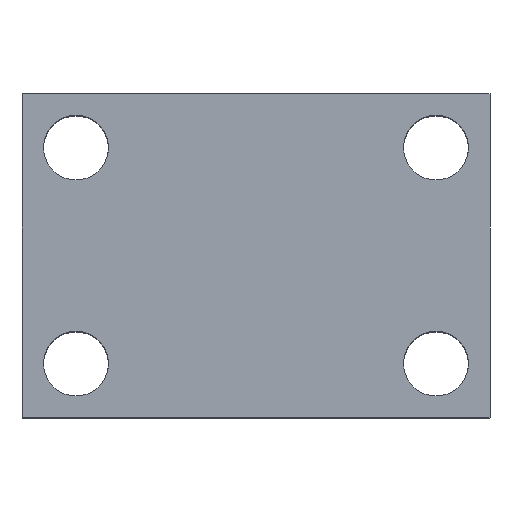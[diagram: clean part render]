
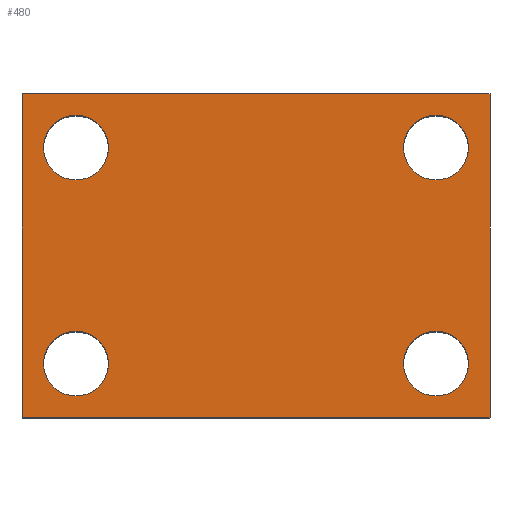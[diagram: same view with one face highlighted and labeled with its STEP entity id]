
A CAD part, top view. The second image highlights one B-rep face of the part: STEP entity #480.
In plain terms, the highlighted planar face has unit normal (0, 0, 1).
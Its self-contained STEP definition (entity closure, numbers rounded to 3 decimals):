
#42 = AXIS2_PLACEMENT_3D ( 'NONE', #17515, #17565, #17576 ) ;
#69 = FACE_OUTER_BOUND ( 'NONE', #12133, .T. ) ;
#89 = DIRECTION ( 'NONE',  ( -1., 0., 0. ) ) ;
#152 = ORIENTED_EDGE ( 'NONE', *, *, #786, .T. ) ;
#200 = VERTEX_POINT ( 'NONE', #9200 ) ;
#208 = DIRECTION ( 'NONE',  ( -1., 0., 0. ) ) ;
#325 = DIRECTION ( 'NONE',  ( -1., 0., 0. ) ) ;
#372 = VERTEX_POINT ( 'NONE', #14771 ) ;
#480 = ADVANCED_FACE ( 'NONE', ( #10872, #4013, #7201, #3609, #69 ), #17454, .F. ) ;
#782 = EDGE_LOOP ( 'NONE', ( #13440, #6436 ) ) ;
#786 = EDGE_CURVE ( 'NONE', #6627, #3094, #1119, .T. ) ;
#787 = AXIS2_PLACEMENT_3D ( 'NONE', #13199, #4985, #14570 ) ;
#805 = VERTEX_POINT ( 'NONE', #3782 ) ;
#964 = DIRECTION ( 'NONE',  ( 1., 0., 0. ) ) ;
#1008 = EDGE_CURVE ( 'NONE', #10574, #4087, #3798, .T. ) ;
#1119 = CIRCLE ( 'NONE', #10001, 4.5 ) ;
#1162 = CIRCLE ( 'NONE', #3664, 4.5 ) ;
#1393 = VECTOR ( 'NONE', #7278, 1000. ) ;
#1807 = LINE ( 'NONE', #10042, #1393 ) ;
#2027 = VERTEX_POINT ( 'NONE', #6520 ) ;
#2135 = ORIENTED_EDGE ( 'NONE', *, *, #3191, .T. ) ;
#2726 = CIRCLE ( 'NONE', #10673, 4.5 ) ;
#2855 = VERTEX_POINT ( 'NONE', #15859 ) ;
#2891 = VERTEX_POINT ( 'NONE', #9048 ) ;
#3021 = CARTESIAN_POINT ( 'NONE',  ( -29.5, 37.5, 40. ) ) ;
#3094 = VERTEX_POINT ( 'NONE', #8401 ) ;
#3191 = EDGE_CURVE ( 'NONE', #3094, #6627, #13176, .T. ) ;
#3359 = AXIS2_PLACEMENT_3D ( 'NONE', #15993, #7806, #17375 ) ;
#3475 = ORIENTED_EDGE ( 'NONE', *, *, #4452, .F. ) ;
#3609 = FACE_BOUND ( 'NONE', #782, .T. ) ;
#3664 = AXIS2_PLACEMENT_3D ( 'NONE', #8052, #17628, #9421 ) ;
#3782 = CARTESIAN_POINT ( 'NONE',  ( 20.5, 37.5, 40. ) ) ;
#3798 = LINE ( 'NONE', #14413, #9772 ) ;
#3918 = CARTESIAN_POINT ( 'NONE',  ( -29.5, 7.5, 40. ) ) ;
#4013 = FACE_BOUND ( 'NONE', #15447, .T. ) ;
#4058 = AXIS2_PLACEMENT_3D ( 'NONE', #7490, #17054, #8868 ) ;
#4087 = VERTEX_POINT ( 'NONE', #6098 ) ;
#4185 = CARTESIAN_POINT ( 'NONE',  ( 25., 7.5, 40. ) ) ;
#4292 = DIRECTION ( 'NONE',  ( 0., 0., -1. ) ) ;
#4351 = DIRECTION ( 'NONE',  ( -1., 0., 0. ) ) ;
#4452 = EDGE_CURVE ( 'NONE', #10574, #200, #15484, .T. ) ;
#4840 = CIRCLE ( 'NONE', #787, 4.5 ) ;
#4971 = EDGE_LOOP ( 'NONE', ( #15059, #11252 ) ) ;
#4985 = DIRECTION ( 'NONE',  ( 0., 0., -1. ) ) ;
#6098 = CARTESIAN_POINT ( 'NONE',  ( -32.5, 0., 40. ) ) ;
#6436 = ORIENTED_EDGE ( 'NONE', *, *, #15549, .T. ) ;
#6520 = CARTESIAN_POINT ( 'NONE',  ( 32.5, 0., 40. ) ) ;
#6562 = CIRCLE ( 'NONE', #9267, 4.5 ) ;
#6614 = EDGE_LOOP ( 'NONE', ( #2135, #152 ) ) ;
#6627 = VERTEX_POINT ( 'NONE', #6975 ) ;
#6700 = VERTEX_POINT ( 'NONE', #3021 ) ;
#6917 = DIRECTION ( 'NONE',  ( 1., 0., 0. ) ) ;
#6975 = CARTESIAN_POINT ( 'NONE',  ( 29.5, 7.5, 40. ) ) ;
#7201 = FACE_BOUND ( 'NONE', #6614, .T. ) ;
#7278 = DIRECTION ( 'NONE',  ( 0., -1., 0. ) ) ;
#7490 = CARTESIAN_POINT ( 'NONE',  ( 25., 7.5, 40. ) ) ;
#7806 = DIRECTION ( 'NONE',  ( 0., 0., -1. ) ) ;
#8052 = CARTESIAN_POINT ( 'NONE',  ( -25., 7.5, 40. ) ) ;
#8077 = EDGE_CURVE ( 'NONE', #200, #2027, #1807, .T. ) ;
#8151 = DIRECTION ( 'NONE',  ( 0., 0., -1. ) ) ;
#8209 = VECTOR ( 'NONE', #6917, 1000. ) ;
#8274 = DIRECTION ( 'NONE',  ( 0., 0., -1. ) ) ;
#8398 = DIRECTION ( 'NONE',  ( 0., 0., -1. ) ) ;
#8401 = CARTESIAN_POINT ( 'NONE',  ( 20.5, 7.5, 40. ) ) ;
#8817 = AXIS2_PLACEMENT_3D ( 'NONE', #16337, #8151, #89 ) ;
#8821 = ORIENTED_EDGE ( 'NONE', *, *, #1008, .T. ) ;
#8868 = DIRECTION ( 'NONE',  ( -1., 0., 0. ) ) ;
#9038 = ORIENTED_EDGE ( 'NONE', *, *, #13049, .T. ) ;
#9048 = CARTESIAN_POINT ( 'NONE',  ( -20.5, 7.5, 40. ) ) ;
#9200 = CARTESIAN_POINT ( 'NONE',  ( 32.5, 45., 40. ) ) ;
#9267 = AXIS2_PLACEMENT_3D ( 'NONE', #16583, #8398, #325 ) ;
#9421 = DIRECTION ( 'NONE',  ( -1., 0., 0. ) ) ;
#9571 = EDGE_CURVE ( 'NONE', #13372, #2891, #1162, .T. ) ;
#9772 = VECTOR ( 'NONE', #14768, 1000. ) ;
#9975 = VECTOR ( 'NONE', #964, 1000. ) ;
#10001 = AXIS2_PLACEMENT_3D ( 'NONE', #4185, #4292, #4351 ) ;
#10042 = CARTESIAN_POINT ( 'NONE',  ( 32.5, 45., 40. ) ) ;
#10574 = VERTEX_POINT ( 'NONE', #17409 ) ;
#10673 = AXIS2_PLACEMENT_3D ( 'NONE', #16454, #8274, #208 ) ;
#10872 = FACE_BOUND ( 'NONE', #4971, .T. ) ;
#11252 = ORIENTED_EDGE ( 'NONE', *, *, #15573, .T. ) ;
#12133 = EDGE_LOOP ( 'NONE', ( #16074, #16953, #3475, #8821 ) ) ;
#13002 = CARTESIAN_POINT ( 'NONE',  ( -32.5, 0., 40. ) ) ;
#13049 = EDGE_CURVE ( 'NONE', #2891, #13372, #6562, .T. ) ;
#13176 = CIRCLE ( 'NONE', #4058, 4.5 ) ;
#13199 = CARTESIAN_POINT ( 'NONE',  ( -25., 37.5, 40. ) ) ;
#13262 = EDGE_CURVE ( 'NONE', #6700, #372, #4840, .T. ) ;
#13372 = VERTEX_POINT ( 'NONE', #3918 ) ;
#13440 = ORIENTED_EDGE ( 'NONE', *, *, #15402, .T. ) ;
#13601 = EDGE_CURVE ( 'NONE', #4087, #2027, #13630, .T. ) ;
#13630 = LINE ( 'NONE', #13002, #9975 ) ;
#14022 = CIRCLE ( 'NONE', #3359, 4.5 ) ;
#14413 = CARTESIAN_POINT ( 'NONE',  ( -32.5, 45., 40. ) ) ;
#14570 = DIRECTION ( 'NONE',  ( -1., 0., 0. ) ) ;
#14768 = DIRECTION ( 'NONE',  ( 0., -1., 0. ) ) ;
#14771 = CARTESIAN_POINT ( 'NONE',  ( -20.5, 37.5, 40. ) ) ;
#15059 = ORIENTED_EDGE ( 'NONE', *, *, #13262, .T. ) ;
#15119 = CARTESIAN_POINT ( 'NONE',  ( -32.5, 45., 40. ) ) ;
#15402 = EDGE_CURVE ( 'NONE', #805, #2855, #14022, .T. ) ;
#15447 = EDGE_LOOP ( 'NONE', ( #16025, #9038 ) ) ;
#15484 = LINE ( 'NONE', #15119, #8209 ) ;
#15549 = EDGE_CURVE ( 'NONE', #2855, #805, #16781, .T. ) ;
#15573 = EDGE_CURVE ( 'NONE', #372, #6700, #2726, .T. ) ;
#15859 = CARTESIAN_POINT ( 'NONE',  ( 29.5, 37.5, 40. ) ) ;
#15993 = CARTESIAN_POINT ( 'NONE',  ( 25., 37.5, 40. ) ) ;
#16025 = ORIENTED_EDGE ( 'NONE', *, *, #9571, .T. ) ;
#16074 = ORIENTED_EDGE ( 'NONE', *, *, #13601, .T. ) ;
#16337 = CARTESIAN_POINT ( 'NONE',  ( 25., 37.5, 40. ) ) ;
#16454 = CARTESIAN_POINT ( 'NONE',  ( -25., 37.5, 40. ) ) ;
#16583 = CARTESIAN_POINT ( 'NONE',  ( -25., 7.5, 40. ) ) ;
#16781 = CIRCLE ( 'NONE', #8817, 4.5 ) ;
#16953 = ORIENTED_EDGE ( 'NONE', *, *, #8077, .F. ) ;
#17054 = DIRECTION ( 'NONE',  ( 0., 0., -1. ) ) ;
#17375 = DIRECTION ( 'NONE',  ( -1., 0., 0. ) ) ;
#17409 = CARTESIAN_POINT ( 'NONE',  ( -32.5, 45., 40. ) ) ;
#17454 = PLANE ( 'NONE',  #42 ) ;
#17515 = CARTESIAN_POINT ( 'NONE',  ( -32.5, 45., 40. ) ) ;
#17565 = DIRECTION ( 'NONE',  ( 0., 0., -1. ) ) ;
#17576 = DIRECTION ( 'NONE',  ( -1., 0., 0. ) ) ;
#17628 = DIRECTION ( 'NONE',  ( 0., 0., -1. ) ) ;
